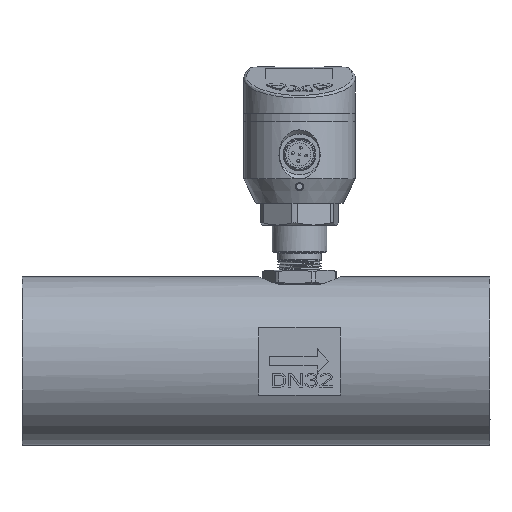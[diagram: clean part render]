
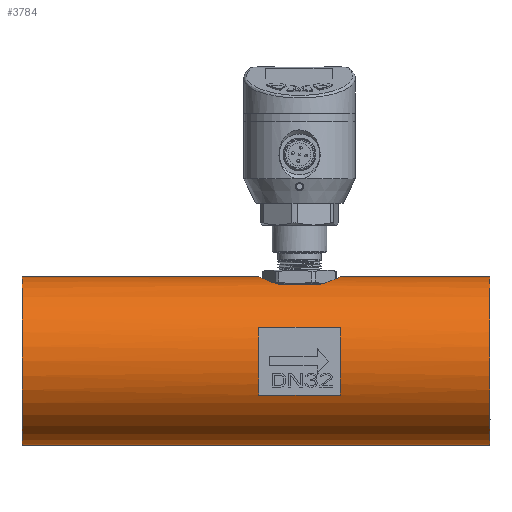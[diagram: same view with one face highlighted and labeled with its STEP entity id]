
A CAD part, left-side view. The second image highlights one B-rep face of the part: STEP entity #3784.
In plain terms, the highlighted cylindrical face has radius 31 mm (diameter 62 mm), a full revolution.
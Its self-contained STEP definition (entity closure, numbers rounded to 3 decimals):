
#1901=LINE('',#17240,#2683);
#1902=LINE('',#17245,#2684);
#1903=LINE('',#17251,#2685);
#1904=LINE('',#17255,#2686);
#1905=LINE('',#17256,#2687);
#1906=LINE('',#17269,#2688);
#2683=VECTOR('',#12238,1.);
#2684=VECTOR('',#12241,1.);
#2685=VECTOR('',#12246,1.);
#2686=VECTOR('',#12249,1.);
#2687=VECTOR('',#12250,1.);
#2688=VECTOR('',#12251,1.);
#3581=FACE_BOUND('',#5013,.T.);
#3582=FACE_BOUND('',#5014,.T.);
#3583=FACE_BOUND('',#5015,.T.);
#3584=FACE_BOUND('',#5016,.T.);
#3585=FACE_BOUND('',#5017,.T.);
#3784=ADVANCED_FACE('',(#3581,#3582,#3583,#3584,#3585),#4349,.T.);
#4349=CYLINDRICAL_SURFACE('',#11323,31.);
#5013=EDGE_LOOP('',(#6135));
#5014=EDGE_LOOP('',(#6136));
#5015=EDGE_LOOP('',(#6137,#6138,#6139,#6140));
#5016=EDGE_LOOP('',(#6141,#6142,#6143,#6144));
#5017=EDGE_LOOP('',(#6145,#6146,#6147,#6148));
#5681=CIRCLE('',#11316,31.);
#5682=CIRCLE('',#11318,31.);
#5683=CIRCLE('',#11319,31.);
#5684=CIRCLE('',#11320,31.);
#5685=CIRCLE('',#11321,31.);
#5686=CIRCLE('',#11322,31.);
#6135=ORIENTED_EDGE('',*,*,#9754,.T.);
#6136=ORIENTED_EDGE('',*,*,#9755,.T.);
#6137=ORIENTED_EDGE('',*,*,#9756,.F.);
#6138=ORIENTED_EDGE('',*,*,#9757,.T.);
#6139=ORIENTED_EDGE('',*,*,#9758,.F.);
#6140=ORIENTED_EDGE('',*,*,#9759,.T.);
#6141=ORIENTED_EDGE('',*,*,#9760,.T.);
#6142=ORIENTED_EDGE('',*,*,#9761,.F.);
#6143=ORIENTED_EDGE('',*,*,#9762,.T.);
#6144=ORIENTED_EDGE('',*,*,#9763,.F.);
#6145=ORIENTED_EDGE('',*,*,#9695,.F.);
#6146=ORIENTED_EDGE('',*,*,#9764,.F.);
#6147=ORIENTED_EDGE('',*,*,#9765,.F.);
#6148=ORIENTED_EDGE('',*,*,#9766,.F.);
#8789=VERTEX_POINT('',#14775);
#8790=VERTEX_POINT('',#14776);
#8831=VERTEX_POINT('',#17236);
#8832=VERTEX_POINT('',#17239);
#8833=VERTEX_POINT('',#17241);
#8834=VERTEX_POINT('',#17242);
#8835=VERTEX_POINT('',#17244);
#8836=VERTEX_POINT('',#17246);
#8837=VERTEX_POINT('',#17249);
#8838=VERTEX_POINT('',#17250);
#8839=VERTEX_POINT('',#17252);
#8840=VERTEX_POINT('',#17254);
#8841=VERTEX_POINT('',#17257);
#8842=VERTEX_POINT('',#17268);
#9695=EDGE_CURVE('',#8789,#8790,#11072,.T.);
#9754=EDGE_CURVE('',#8831,#8831,#5681,.T.);
#9755=EDGE_CURVE('',#8832,#8832,#5682,.T.);
#9756=EDGE_CURVE('',#8833,#8834,#1901,.T.);
#9757=EDGE_CURVE('',#8833,#8835,#5683,.T.);
#9758=EDGE_CURVE('',#8836,#8835,#1902,.T.);
#9759=EDGE_CURVE('',#8836,#8834,#5684,.T.);
#9760=EDGE_CURVE('',#8837,#8838,#5685,.T.);
#9761=EDGE_CURVE('',#8839,#8838,#1903,.T.);
#9762=EDGE_CURVE('',#8839,#8840,#5686,.T.);
#9763=EDGE_CURVE('',#8837,#8840,#1904,.T.);
#9764=EDGE_CURVE('',#8841,#8789,#1905,.T.);
#9765=EDGE_CURVE('',#8842,#8841,#11120,.T.);
#9766=EDGE_CURVE('',#8790,#8842,#1906,.T.);
#11072=B_SPLINE_CURVE_WITH_KNOTS('',3,(#14765,#14766,#14767,#14768,#14769,
#14770,#14771,#14772,#14773,#14774),.UNSPECIFIED.,.F.,.F.,(4,2,2,2,4),(0.,
0.25,0.5,0.75,1.),.UNSPECIFIED.);
#11120=B_SPLINE_CURVE_WITH_KNOTS('',3,(#17258,#17259,#17260,#17261,#17262,
#17263,#17264,#17265,#17266,#17267),.UNSPECIFIED.,.F.,.F.,(4,2,2,2,4),(0.,
0.25,0.5,0.75,1.),.UNSPECIFIED.);
#11316=AXIS2_PLACEMENT_3D('',#17235,#12232,#12233);
#11318=AXIS2_PLACEMENT_3D('',#17238,#12236,#12237);
#11319=AXIS2_PLACEMENT_3D('',#17243,#12239,#12240);
#11320=AXIS2_PLACEMENT_3D('',#17247,#12242,#12243);
#11321=AXIS2_PLACEMENT_3D('',#17248,#12244,#12245);
#11322=AXIS2_PLACEMENT_3D('',#17253,#12247,#12248);
#11323=AXIS2_PLACEMENT_3D('',#17270,#12252,#12253);
#12232=DIRECTION('',(0.,1.,0.));
#12233=DIRECTION('',(-1.,0.,0.));
#12236=DIRECTION('',(0.,-1.,0.));
#12237=DIRECTION('',(-1.,0.,0.));
#12238=DIRECTION('',(0.,-1.,0.));
#12239=DIRECTION('',(0.,1.,0.));
#12240=DIRECTION('',(1.,0.,0.));
#12241=DIRECTION('',(0.,1.,0.));
#12242=DIRECTION('',(0.,-1.,0.));
#12243=DIRECTION('',(0.915,0.,-0.403));
#12244=DIRECTION('',(0.,1.,0.));
#12245=DIRECTION('',(-0.915,0.,-0.403));
#12246=DIRECTION('',(0.,1.,0.));
#12247=DIRECTION('',(0.,-1.,0.));
#12248=DIRECTION('',(-1.,0.,0.));
#12249=DIRECTION('',(0.,-1.,0.));
#12250=DIRECTION('',(0.,-1.,0.));
#12251=DIRECTION('',(0.,1.,0.));
#12252=DIRECTION('',(0.,-1.,0.));
#12253=DIRECTION('',(-1.,0.,0.));
#14765=CARTESIAN_POINT('',(12.196,29.472,-94.));
#14766=CARTESIAN_POINT('',(13.461,27.042,-93.399));
#14767=CARTESIAN_POINT('',(15.343,25.037,-92.615));
#14768=CARTESIAN_POINT('',(19.936,22.212,-91.411));
#14769=CARTESIAN_POINT('',(22.674,21.403,-91.002));
#14770=CARTESIAN_POINT('',(28.29,21.397,-90.998));
#14771=CARTESIAN_POINT('',(31.019,22.191,-91.402));
#14772=CARTESIAN_POINT('',(35.646,25.024,-92.61));
#14773=CARTESIAN_POINT('',(37.539,27.042,-93.399));
#14774=CARTESIAN_POINT('',(38.804,29.472,-94.));
#14775=CARTESIAN_POINT('',(12.196,29.472,-94.));
#14776=CARTESIAN_POINT('',(38.804,29.472,-94.));
#17235=CARTESIAN_POINT('',(25.5,-33.6,-122.));
#17236=CARTESIAN_POINT('',(-5.5,-33.6,-122.));
#17238=CARTESIAN_POINT('',(25.5,138.4,-122.));
#17239=CARTESIAN_POINT('',(-5.5,138.4,-122.));
#17240=CARTESIAN_POINT('',(53.868,51.4,-109.5));
#17241=CARTESIAN_POINT('',(53.868,51.4,-109.5));
#17242=CARTESIAN_POINT('',(53.868,21.4,-109.5));
#17243=CARTESIAN_POINT('',(25.5,51.4,-122.));
#17244=CARTESIAN_POINT('',(53.868,51.4,-134.5));
#17245=CARTESIAN_POINT('',(53.868,21.4,-134.5));
#17246=CARTESIAN_POINT('',(53.868,21.4,-134.5));
#17247=CARTESIAN_POINT('',(25.5,21.4,-122.));
#17248=CARTESIAN_POINT('',(25.5,51.4,-122.));
#17249=CARTESIAN_POINT('',(-2.868,51.4,-134.5));
#17250=CARTESIAN_POINT('',(-2.868,51.4,-109.5));
#17251=CARTESIAN_POINT('',(-2.868,21.4,-109.5));
#17252=CARTESIAN_POINT('',(-2.868,21.4,-109.5));
#17253=CARTESIAN_POINT('',(25.5,21.4,-122.));
#17254=CARTESIAN_POINT('',(-2.868,21.4,-134.5));
#17255=CARTESIAN_POINT('',(-2.868,51.4,-134.5));
#17256=CARTESIAN_POINT('',(12.196,43.328,-94.));
#17257=CARTESIAN_POINT('',(12.196,43.328,-94.));
#17258=CARTESIAN_POINT('',(38.804,43.328,-94.));
#17259=CARTESIAN_POINT('',(37.539,45.758,-93.399));
#17260=CARTESIAN_POINT('',(35.656,47.763,-92.615));
#17261=CARTESIAN_POINT('',(31.063,50.589,-91.411));
#17262=CARTESIAN_POINT('',(28.305,51.396,-91.002));
#17263=CARTESIAN_POINT('',(22.736,51.404,-90.998));
#17264=CARTESIAN_POINT('',(19.999,50.62,-91.397));
#17265=CARTESIAN_POINT('',(15.337,47.766,-92.614));
#17266=CARTESIAN_POINT('',(13.461,45.758,-93.399));
#17267=CARTESIAN_POINT('',(12.196,43.328,-94.));
#17268=CARTESIAN_POINT('',(38.804,43.328,-94.));
#17269=CARTESIAN_POINT('',(38.804,29.472,-94.));
#17270=CARTESIAN_POINT('',(25.5,147.,-122.));
